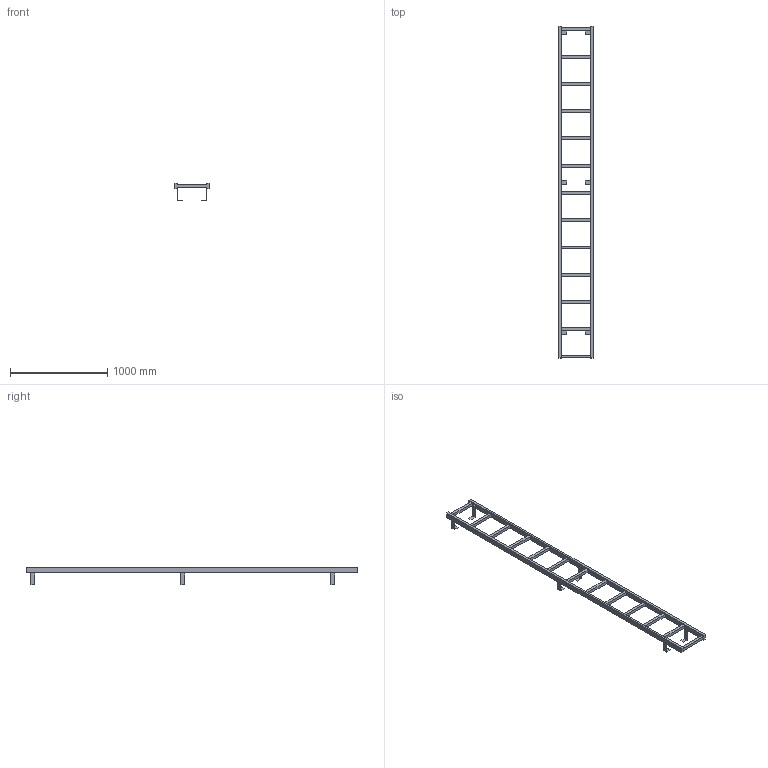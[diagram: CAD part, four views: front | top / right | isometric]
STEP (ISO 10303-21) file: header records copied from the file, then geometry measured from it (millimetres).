
FILE_DESCRIPTION((''),'2;1');
FILE_NAME('52310938','2024-10-17T11:59:27',('wep'),('HUBER SE'),'CREO PARAMETRIC BY PTC INC, 2022162','CREO PARAMETRIC BY PTC INC, 2022162','');
FILE_SCHEMA(('AUTOMOTIVE_DESIGN { 1 0 10303 214 1 1 1 1 }'));
Length unit declared in the file: millimetre
Products named in the file (1): 52310938
Bounding box: 350 x 3410 x 178.5 mm (x, y, z)
Volume: 13325940 mm3; surface area: 1658132 mm2
Topology: 1 solids, 1 shells, 110 faces, 320 edges, 208 vertices
Faces by surface type: plane 110
Entity records: 4153 total; most frequent: CARTESIAN_POINT 640, ORIENTED_EDGE 640, DIRECTION 540, VECTOR 320, LINE 320, EDGE_CURVE 320, VERTEX_POINT 208, EDGE_LOOP 130
